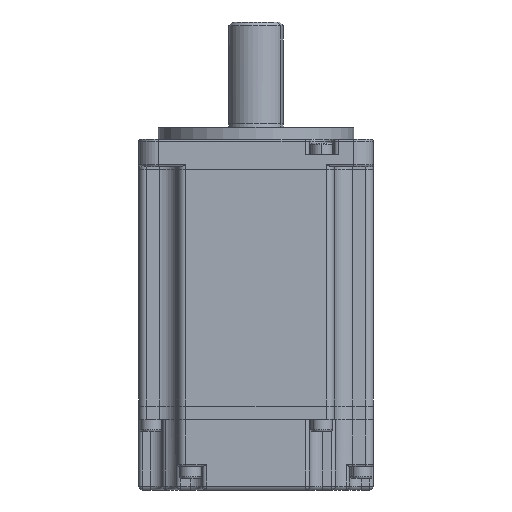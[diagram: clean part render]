
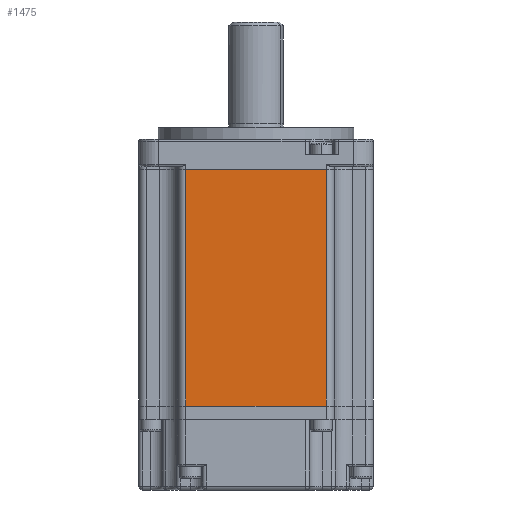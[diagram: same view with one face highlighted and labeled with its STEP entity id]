
A CAD part, front view. The second image highlights one B-rep face of the part: STEP entity #1475.
In plain terms, the highlighted planar face has unit normal (0, -1, 0).
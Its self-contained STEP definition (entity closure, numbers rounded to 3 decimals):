
#408 = LINE ( 'NONE', #19932, #8909 ) ;
#421 = PLANE ( 'NONE',  #10168 ) ;
#524 = EDGE_CURVE ( 'NONE', #10178, #8024, #21902, .T. ) ;
#1089 = LINE ( 'NONE', #9876, #14969 ) ;
#1299 = VECTOR ( 'NONE', #12576, 1000. ) ;
#1475 = ADVANCED_FACE ( 'NONE', ( #16230 ), #421, .F. ) ;
#3197 = VERTEX_POINT ( 'NONE', #4691 ) ;
#4691 = CARTESIAN_POINT ( 'NONE',  ( -23.429, -32.143, -3.65 ) ) ;
#4901 = CARTESIAN_POINT ( 'NONE',  ( -23.429, -32.143, 56.85 ) ) ;
#5080 = CARTESIAN_POINT ( 'NONE',  ( 12.571, -32.143, -3.65 ) ) ;
#6707 = ORIENTED_EDGE ( 'NONE', *, *, #10057, .T. ) ;
#7573 = DIRECTION ( 'NONE',  ( 0., 1., 0. ) ) ;
#7849 = ORIENTED_EDGE ( 'NONE', *, *, #12568, .F. ) ;
#7901 = ORIENTED_EDGE ( 'NONE', *, *, #8475, .F. ) ;
#8024 = VERTEX_POINT ( 'NONE', #21392 ) ;
#8475 = EDGE_CURVE ( 'NONE', #3197, #14514, #12541, .T. ) ;
#8909 = VECTOR ( 'NONE', #9257, 1000. ) ;
#9257 = DIRECTION ( 'NONE',  ( -1., 0., 0. ) ) ;
#9876 = CARTESIAN_POINT ( 'NONE',  ( -23.429, -32.143, 56.85 ) ) ;
#10057 = EDGE_CURVE ( 'NONE', #8024, #14514, #1089, .T. ) ;
#10168 = AXIS2_PLACEMENT_3D ( 'NONE', #11268, #7573, #22110 ) ;
#10178 = VERTEX_POINT ( 'NONE', #5080 ) ;
#11268 = CARTESIAN_POINT ( 'NONE',  ( -23.429, -32.143, -3.65 ) ) ;
#12541 = LINE ( 'NONE', #19129, #20926 ) ;
#12568 = EDGE_CURVE ( 'NONE', #10178, #3197, #408, .T. ) ;
#12576 = DIRECTION ( 'NONE',  ( 0., 0., 1. ) ) ;
#14514 = VERTEX_POINT ( 'NONE', #4901 ) ;
#14969 = VECTOR ( 'NONE', #22613, 1000. ) ;
#15799 = DIRECTION ( 'NONE',  ( 0., 0., 1. ) ) ;
#16230 = FACE_OUTER_BOUND ( 'NONE', #16925, .T. ) ;
#16859 = ORIENTED_EDGE ( 'NONE', *, *, #524, .T. ) ;
#16925 = EDGE_LOOP ( 'NONE', ( #6707, #7901, #7849, #16859 ) ) ;
#19129 = CARTESIAN_POINT ( 'NONE',  ( -23.429, -32.143, -3.65 ) ) ;
#19684 = CARTESIAN_POINT ( 'NONE',  ( 12.571, -32.143, -3.65 ) ) ;
#19932 = CARTESIAN_POINT ( 'NONE',  ( -23.429, -32.143, -3.65 ) ) ;
#20926 = VECTOR ( 'NONE', #15799, 1000. ) ;
#21392 = CARTESIAN_POINT ( 'NONE',  ( 12.571, -32.143, 56.85 ) ) ;
#21902 = LINE ( 'NONE', #19684, #1299 ) ;
#22110 = DIRECTION ( 'NONE',  ( 1., 0., 0. ) ) ;
#22613 = DIRECTION ( 'NONE',  ( -1., 0., 0. ) ) ;
